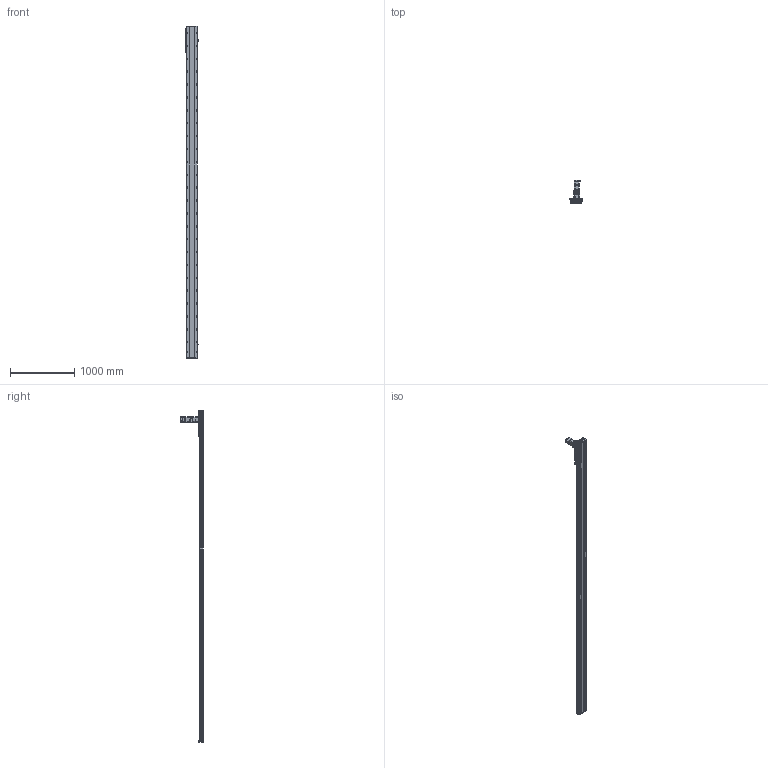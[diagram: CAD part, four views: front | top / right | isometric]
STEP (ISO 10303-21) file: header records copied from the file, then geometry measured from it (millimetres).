
FILE_DESCRIPTION (( 'STEP AP214' ), '1' );
FILE_NAME ('SHS170-S4700.STEP', '2022-12-05T09:01:54', ( '' ), ( '' ), 'SwSTEP 2.0', 'SolidWorks 2020', '' );
FILE_SCHEMA (( 'AUTOMOTIVE_DESIGN' ));
Length unit declared in the file: millimetre
Products named in the file (11): SB-90-3-P2-C20807_203.step; SGMJV-08A3A6E.step; MSB20S_____.step; SHS170-DZ-4700_____________.step; 錨璃153^SHS170-S4700; EE-SX672.step; SHS170-S4700.step; SHS170____.step; CHMH-020-20.step; SHS170-S4700; SHS170______.step
Assembly tree (18 placements, depth 3):
  SHS170-S4700
    SHS170-S4700.step
      SHS170-DZ-4700_____________.step
      MSB20S_____.step  x7
      SHS170____.step
      SHS170______.step
      SB-90-3-P2-C20807_203.step
      CHMH-020-20.step
      SGMJV-08A3A6E.step
      EE-SX672.step  x3
    錨璃153^SHS170-S4700
Bounding box: 193.7 x 355.6 x 5155 mm (x, y, z)
Volume: 26178957.6 mm3; surface area: 6723629.2 mm2
Topology: 107 solids, 107 shells, 5422 faces, 14897 edges, 9725 vertices
Faces by surface type: plane 2780, cylinder 1636, bspline 667, cone 339
Entity records: 178905 total; most frequent: CARTESIAN_POINT 67109, ORIENTED_EDGE 24602, DIRECTION 20355, EDGE_CURVE 12301, VERTEX_POINT 8109, VECTOR 7525, LINE 7525, AXIS2_PLACEMENT_3D 6415
